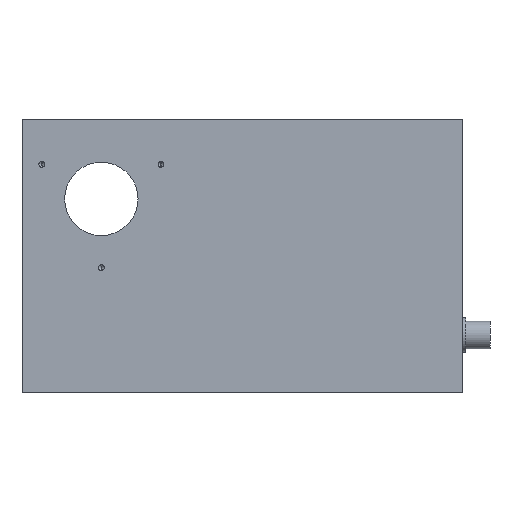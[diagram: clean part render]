
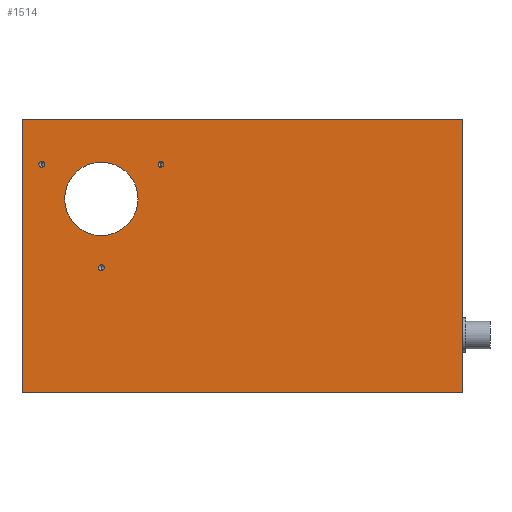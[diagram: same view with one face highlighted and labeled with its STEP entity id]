
A CAD part, front view. The second image highlights one B-rep face of the part: STEP entity #1514.
In plain terms, the highlighted planar face has unit normal (0, -1, 0).
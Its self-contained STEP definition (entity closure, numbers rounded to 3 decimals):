
#93 = CARTESIAN_POINT ( 'NONE',  ( 34.6, 0.25, 84.4 ) ) ;
#170 = DIRECTION ( 'NONE',  ( -1., 0., 0. ) ) ;
#183 = ORIENTED_EDGE ( 'NONE', *, *, #4606, .T. ) ;
#252 = ORIENTED_EDGE ( 'NONE', *, *, #1069, .T. ) ;
#299 = EDGE_CURVE ( 'NONE', #4436, #4343, #4566, .T. ) ;
#414 = LINE ( 'NONE', #4789, #1634 ) ;
#443 = PLANE ( 'NONE',  #1053 ) ;
#446 = DIRECTION ( 'NONE',  ( 0., -1., 0. ) ) ;
#472 = ORIENTED_EDGE ( 'NONE', *, *, #3366, .T. ) ;
#508 = CARTESIAN_POINT ( 'NONE',  ( 60.581, 0.25, 99.4 ) ) ;
#548 = ORIENTED_EDGE ( 'NONE', *, *, #2398, .F. ) ;
#691 = CARTESIAN_POINT ( 'NONE',  ( 34.6, 0.25, 54.4 ) ) ;
#843 = VERTEX_POINT ( 'NONE', #1498 ) ;
#880 = EDGE_CURVE ( 'NONE', #3443, #3159, #1186, .T. ) ;
#987 = EDGE_CURVE ( 'NONE', #1135, #5068, #4805, .T. ) ;
#1029 = VERTEX_POINT ( 'NONE', #4373 ) ;
#1053 = AXIS2_PLACEMENT_3D ( 'NONE', #1228, #1211, #3986 ) ;
#1069 = EDGE_CURVE ( 'NONE', #1936, #1029, #4365, .T. ) ;
#1080 = DIRECTION ( 'NONE',  ( 0., -1., 0. ) ) ;
#1102 = DIRECTION ( 'NONE',  ( 0., 0., 1. ) ) ;
#1135 = VERTEX_POINT ( 'NONE', #2959 ) ;
#1145 = EDGE_CURVE ( 'NONE', #5068, #1135, #1851, .T. ) ;
#1155 = ORIENTED_EDGE ( 'NONE', *, *, #880, .F. ) ;
#1186 = CIRCLE ( 'NONE', #2791, 1.275 ) ;
#1211 = DIRECTION ( 'NONE',  ( 0., 1., 0. ) ) ;
#1228 = CARTESIAN_POINT ( 'NONE',  ( 0., 0.25, 0. ) ) ;
#1236 = CARTESIAN_POINT ( 'NONE',  ( 0., 0.25, 0. ) ) ;
#1380 = CARTESIAN_POINT ( 'NONE',  ( 34.6, 0.25, 54.4 ) ) ;
#1455 = CARTESIAN_POINT ( 'NONE',  ( 8.619, 0.25, 100.675 ) ) ;
#1468 = VERTEX_POINT ( 'NONE', #4359 ) ;
#1498 = CARTESIAN_POINT ( 'NONE',  ( 34.6, 0.25, 100.4 ) ) ;
#1514 = ADVANCED_FACE ( 'NONE', ( #2348, #2585, #2702, #1552, #1671 ), #443, .F. ) ;
#1552 = FACE_BOUND ( 'NONE', #3264, .T. ) ;
#1579 = AXIS2_PLACEMENT_3D ( 'NONE', #4053, #2490, #3680 ) ;
#1634 = VECTOR ( 'NONE', #4396, 1000. ) ;
#1671 = FACE_BOUND ( 'NONE', #3008, .T. ) ;
#1773 = DIRECTION ( 'NONE',  ( 0., -1., 0. ) ) ;
#1795 = CARTESIAN_POINT ( 'NONE',  ( 8.619, 0.25, 98.125 ) ) ;
#1806 = CARTESIAN_POINT ( 'NONE',  ( 34.6, 0.25, 55.675 ) ) ;
#1851 = CIRCLE ( 'NONE', #3322, 1.275 ) ;
#1877 = CARTESIAN_POINT ( 'NONE',  ( 34.6, 0.25, 68.4 ) ) ;
#1936 = VERTEX_POINT ( 'NONE', #1236 ) ;
#2122 = DIRECTION ( 'NONE',  ( 0., 0., 1. ) ) ;
#2191 = CIRCLE ( 'NONE', #5067, 1.275 ) ;
#2231 = ORIENTED_EDGE ( 'NONE', *, *, #987, .F. ) ;
#2348 = FACE_BOUND ( 'NONE', #3805, .T. ) ;
#2381 = CARTESIAN_POINT ( 'NONE',  ( 34.6, 0.25, 53.125 ) ) ;
#2396 = VECTOR ( 'NONE', #2897, 1000. ) ;
#2398 = EDGE_CURVE ( 'NONE', #4472, #843, #2441, .T. ) ;
#2441 = CIRCLE ( 'NONE', #4881, 16. ) ;
#2489 = DIRECTION ( 'NONE',  ( 0., 0., 1. ) ) ;
#2490 = DIRECTION ( 'NONE',  ( 0., -1., 0. ) ) ;
#2505 = EDGE_CURVE ( 'NONE', #3159, #3443, #3350, .T. ) ;
#2507 = VERTEX_POINT ( 'NONE', #3698 ) ;
#2585 = FACE_BOUND ( 'NONE', #4903, .T. ) ;
#2617 = ORIENTED_EDGE ( 'NONE', *, *, #3855, .F. ) ;
#2702 = FACE_OUTER_BOUND ( 'NONE', #4292, .T. ) ;
#2791 = AXIS2_PLACEMENT_3D ( 'NONE', #691, #1080, #1102 ) ;
#2841 = ORIENTED_EDGE ( 'NONE', *, *, #3108, .T. ) ;
#2874 = DIRECTION ( 'NONE',  ( 0., 0., 1. ) ) ;
#2890 = VECTOR ( 'NONE', #3257, 1000. ) ;
#2892 = DIRECTION ( 'NONE',  ( 0., 0., 1. ) ) ;
#2897 = DIRECTION ( 'NONE',  ( 0., 0., 1. ) ) ;
#2898 = CARTESIAN_POINT ( 'NONE',  ( 0., 0.25, 119. ) ) ;
#2906 = DIRECTION ( 'NONE',  ( 0., -1., 0. ) ) ;
#2959 = CARTESIAN_POINT ( 'NONE',  ( 60.581, 0.25, 98.125 ) ) ;
#2985 = AXIS2_PLACEMENT_3D ( 'NONE', #4450, #4058, #2874 ) ;
#3008 = EDGE_LOOP ( 'NONE', ( #5083, #548 ) ) ;
#3108 = EDGE_CURVE ( 'NONE', #2507, #1936, #414, .T. ) ;
#3157 = AXIS2_PLACEMENT_3D ( 'NONE', #508, #4426, #2489 ) ;
#3159 = VERTEX_POINT ( 'NONE', #2381 ) ;
#3257 = DIRECTION ( 'NONE',  ( 1., 0., 0. ) ) ;
#3264 = EDGE_LOOP ( 'NONE', ( #4115, #1155 ) ) ;
#3322 = AXIS2_PLACEMENT_3D ( 'NONE', #4858, #2906, #4534 ) ;
#3350 = CIRCLE ( 'NONE', #3649, 1.275 ) ;
#3366 = EDGE_CURVE ( 'NONE', #1468, #2507, #5005, .T. ) ;
#3443 = VERTEX_POINT ( 'NONE', #1806 ) ;
#3630 = CARTESIAN_POINT ( 'NONE',  ( 0., 0.25, 0. ) ) ;
#3649 = AXIS2_PLACEMENT_3D ( 'NONE', #1380, #1773, #2892 ) ;
#3680 = DIRECTION ( 'NONE',  ( 0., 0., 1. ) ) ;
#3698 = CARTESIAN_POINT ( 'NONE',  ( 0., 0.25, 119. ) ) ;
#3787 = CARTESIAN_POINT ( 'NONE',  ( 60.581, 0.25, 100.675 ) ) ;
#3805 = EDGE_LOOP ( 'NONE', ( #2231, #3834 ) ) ;
#3834 = ORIENTED_EDGE ( 'NONE', *, *, #1145, .F. ) ;
#3855 = EDGE_CURVE ( 'NONE', #4343, #4436, #2191, .T. ) ;
#3947 = CARTESIAN_POINT ( 'NONE',  ( 8.619, 0.25, 99.4 ) ) ;
#3986 = DIRECTION ( 'NONE',  ( 0., 0., 1. ) ) ;
#4053 = CARTESIAN_POINT ( 'NONE',  ( 34.6, 0.25, 84.4 ) ) ;
#4055 = EDGE_CURVE ( 'NONE', #843, #4472, #4963, .T. ) ;
#4058 = DIRECTION ( 'NONE',  ( 0., -1., 0. ) ) ;
#4115 = ORIENTED_EDGE ( 'NONE', *, *, #2505, .F. ) ;
#4208 = ORIENTED_EDGE ( 'NONE', *, *, #299, .F. ) ;
#4292 = EDGE_LOOP ( 'NONE', ( #2841, #252, #183, #472 ) ) ;
#4343 = VERTEX_POINT ( 'NONE', #1795 ) ;
#4359 = CARTESIAN_POINT ( 'NONE',  ( 192., 0.25, 119. ) ) ;
#4365 = LINE ( 'NONE', #3630, #2890 ) ;
#4373 = CARTESIAN_POINT ( 'NONE',  ( 192., 0.25, 0. ) ) ;
#4390 = DIRECTION ( 'NONE',  ( 0., -1., 0. ) ) ;
#4396 = DIRECTION ( 'NONE',  ( 0., 0., -1. ) ) ;
#4426 = DIRECTION ( 'NONE',  ( 0., -1., 0. ) ) ;
#4436 = VERTEX_POINT ( 'NONE', #1455 ) ;
#4450 = CARTESIAN_POINT ( 'NONE',  ( 8.619, 0.25, 99.4 ) ) ;
#4472 = VERTEX_POINT ( 'NONE', #1877 ) ;
#4484 = LINE ( 'NONE', #4817, #2396 ) ;
#4534 = DIRECTION ( 'NONE',  ( 0., 0., 1. ) ) ;
#4566 = CIRCLE ( 'NONE', #2985, 1.275 ) ;
#4606 = EDGE_CURVE ( 'NONE', #1029, #1468, #4484, .T. ) ;
#4751 = DIRECTION ( 'NONE',  ( 0., 0., 1. ) ) ;
#4769 = VECTOR ( 'NONE', #170, 1000. ) ;
#4789 = CARTESIAN_POINT ( 'NONE',  ( 0., 0.25, 0. ) ) ;
#4805 = CIRCLE ( 'NONE', #3157, 1.275 ) ;
#4817 = CARTESIAN_POINT ( 'NONE',  ( 192., 0.25, 0. ) ) ;
#4858 = CARTESIAN_POINT ( 'NONE',  ( 60.581, 0.25, 99.4 ) ) ;
#4881 = AXIS2_PLACEMENT_3D ( 'NONE', #93, #446, #4751 ) ;
#4903 = EDGE_LOOP ( 'NONE', ( #2617, #4208 ) ) ;
#4963 = CIRCLE ( 'NONE', #1579, 16. ) ;
#5005 = LINE ( 'NONE', #2898, #4769 ) ;
#5067 = AXIS2_PLACEMENT_3D ( 'NONE', #3947, #4390, #2122 ) ;
#5068 = VERTEX_POINT ( 'NONE', #3787 ) ;
#5083 = ORIENTED_EDGE ( 'NONE', *, *, #4055, .F. ) ;
